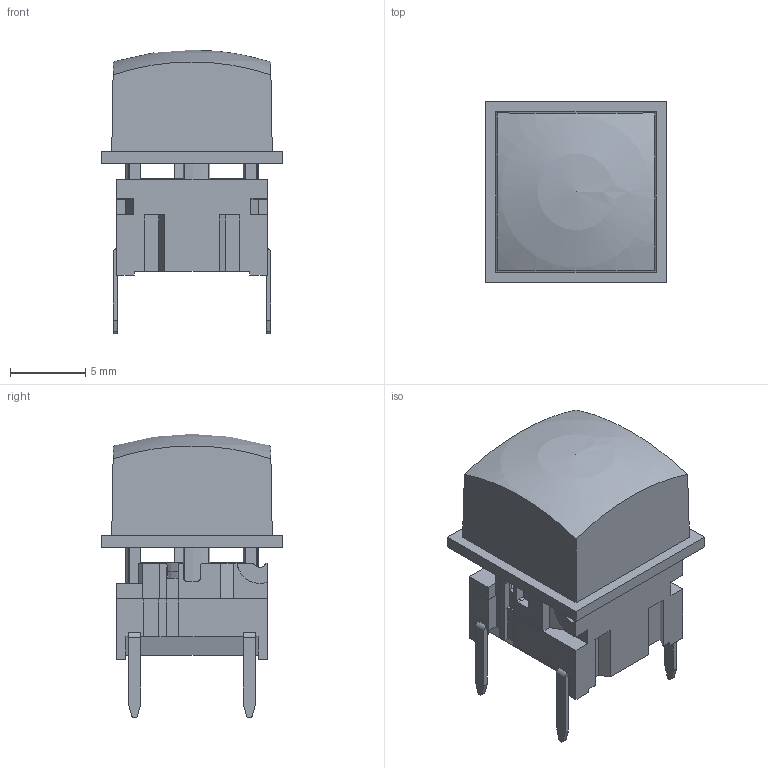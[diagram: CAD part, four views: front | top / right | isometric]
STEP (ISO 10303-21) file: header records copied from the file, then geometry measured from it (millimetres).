
FILE_DESCRIPTION((''),'2;1');
FILE_NAME('C:\Users\fd.MEC-AS\Desktop\Morten\19012012\Ny mappe\5GTH9+1TS.stp','2012-01-19T07:59:59',('fd'),(''),'Autodesk Inventor 2012','Autodesk Inventor 2012','');
FILE_SCHEMA(('AUTOMOTIVE_DESIGN { 1 0 10303 214 1 1 1 1 }'));
Length unit declared in the file: millimetre
Products named in the file (1): Part5
Bounding box: 12.06 x 12.06 x 18.85 mm (x, y, z)
Volume: 1331 mm3; surface area: 1286.3 mm2
Topology: 1 solids, 1 shells, 446 faces, 1325 edges, 871 vertices
Faces by surface type: plane 310, cylinder 84, bspline 39, cone 12, sphere 1
Entity records: 15376 total; most frequent: CARTESIAN_POINT 3510, ORIENTED_EDGE 2644, DIRECTION 2270, EDGE_CURVE 1322, VECTOR 972, LINE 972, VERTEX_POINT 869, AXIS2_PLACEMENT_3D 649
